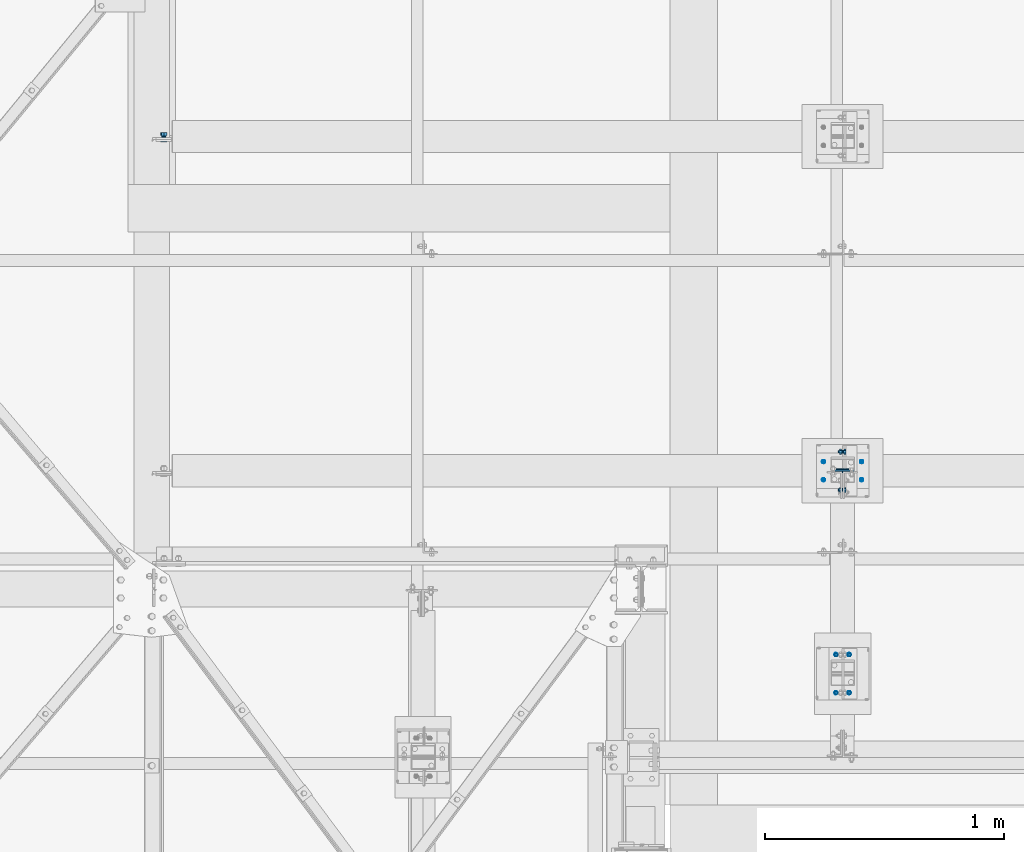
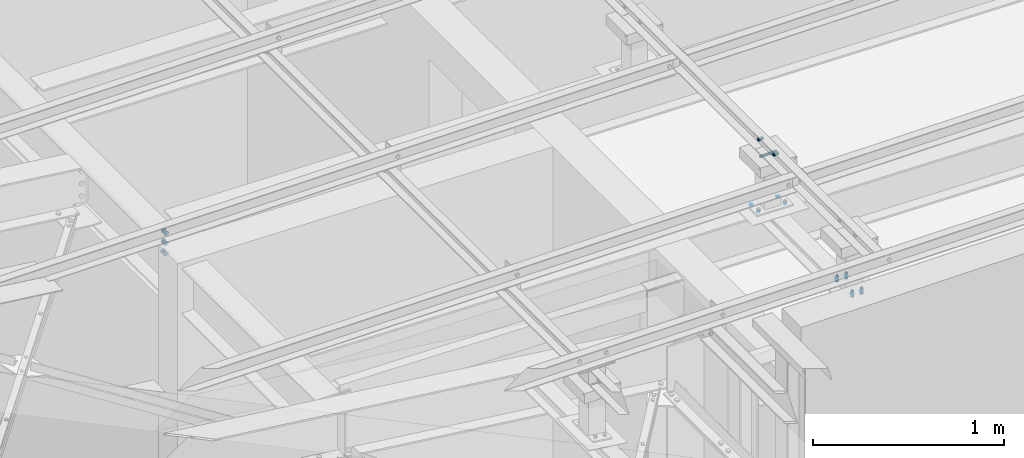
# One storey, part 389 of 3134: 6 mechanical fasteners, 5 elements without a shape of their own.
"""IFC2X3 building model written with IfcOpenShell, lengths in millimetres."""

from ifc_helpers import new_model, si_unit, frame, origin_with_axes, place, context, subcontext, project, spatial, faceted_brep, source, transform, mapped, material, type_object, element, aggregate, save


model = new_model("IFC2X3")

# Units and contexts
model_context = context("Model", 3, precision=1e-05, world=origin_with_axes())
body_context = subcontext(model_context, "Body", "Model", "MODEL_VIEW")
ifc_project = project(units=[si_unit("LENGTHUNIT", "METRE", prefix="MILLI"), si_unit("AREAUNIT", "SQUARE_METRE"), si_unit("VOLUMEUNIT", "CUBIC_METRE"), si_unit("MASSUNIT", "GRAM", prefix="KILO"), si_unit("TIMEUNIT", "SECOND"), si_unit("PLANEANGLEUNIT", "RADIAN"), si_unit("SOLIDANGLEUNIT", "STERADIAN"), si_unit("THERMODYNAMICTEMPERATUREUNIT", "DEGREE_CELSIUS"), si_unit("LUMINOUSINTENSITYUNIT", "LUMEN")], contexts=[model_context])

# Site, building, storey
site_placement = place(None, origin_with_axes())
site = spatial("IfcSite", under=ifc_project, at=site_placement, CompositionType="ELEMENT")
building_placement = place(site_placement, origin_with_axes())
building = spatial("IfcBuilding", under=site, at=building_placement, Name="Undefined", CompositionType="ELEMENT")
storey_placement = place(building_placement, origin_with_axes())
storey = spatial("IfcBuildingStorey", under=building, at=storey_placement, Name="Undefined", CompositionType="ELEMENT", Elevation=0.0)

# Assembly, mechanical fastener
assembly_1_placement = place(storey_placement, origin_with_axes())
assembly_1 = element("IfcElementAssembly", 1, at=assembly_1_placement, inside=storey, AssemblyPlace="NOTDEFINED", PredefinedType="RIGID_FRAME")
ifc_material = material(Name="8.8")
mechanical_fastener_type = type_object("IfcMechanicalFastenerType", Name="Bolt assembly")
shared_shape_1 = source(origin_with_axes(), body_context, "Body", "Brep", [
    faceted_brep([(10.9696551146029, -14.0, 0.0), (5.48482755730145, -14.0, 9.5), (-5.48482755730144, -14.0, 9.5), (-10.9696551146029, -14.0, 1.34339530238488e-15), (-5.48482755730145, -14.0, -9.5), (5.48482755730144, -14.0, -9.50000000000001), (5.48482755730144, -6.0, -9.50000000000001), (-5.48482755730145, -6.0, -9.5), (-10.9696551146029, -6.0, 1.34339530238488e-15), (-5.48482755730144, -6.0, 9.5), (5.48482755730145, -6.0, 9.5), (10.9696551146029, -6.0, 0.0), (6.0, -6.0, 0.0), (5.19615242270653, -6.0, 3.00000000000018), (2.99999999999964, -6.0, 5.19615242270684), (-6.21801588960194e-13, -6.0, 6.0), (-3.00000000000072, -6.0, 5.19615242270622), (-5.19615242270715, -6.0, 2.9999999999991), (-6.0, -6.0, -1.24360317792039e-12), (-5.19615242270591, -6.0, -3.00000000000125), (-2.99999999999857, -6.0, -5.19615242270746), (1.85874342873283e-12, -6.0, -6.0), (3.00000000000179, -6.0, -5.1961524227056), (5.19615242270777, -6.0, -2.99999999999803), (5.19615242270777, 19.0, -2.99999999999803), (3.00000000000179, 19.0, -5.1961524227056), (1.85874342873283e-12, 19.0, -6.0), (-2.99999999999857, 19.0, -5.19615242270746), (-5.19615242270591, 19.0, -3.00000000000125), (-6.0, 19.0, -1.24360317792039e-12), (-5.19615242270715, 19.0, 2.9999999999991), (-3.00000000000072, 19.0, 5.19615242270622), (-6.21801588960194e-13, 19.0, 6.0), (2.99999999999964, 19.0, 5.19615242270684), (5.19615242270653, 19.0, 3.00000000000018), (6.0, 19.0, 0.0), (10.9696551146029, 4.00000000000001, 0.0), (5.48482755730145, 4.00000000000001, 9.5), (-5.48482755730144, 4.00000000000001, 9.5), (-10.9696551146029, 4.00000000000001, 1.34339530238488e-15), (-5.48482755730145, 4.00000000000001, -9.5), (5.48482755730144, 4.00000000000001, -9.50000000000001), (5.48482755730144, 14.0, -9.50000000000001), (-5.48482755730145, 14.0, -9.5), (-10.9696551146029, 14.0, 1.34339530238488e-15), (-5.48482755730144, 14.0, 9.5), (5.48482755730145, 14.0, 9.5), (10.9696551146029, 14.0, 0.0)], [[[0, 1, 2, 3, 4, 5]], [[6, 7, 8, 9, 10, 11]], [[0, 11, 10, 1]], [[1, 10, 9, 2]], [[2, 9, 8, 3]], [[3, 8, 7, 4]], [[4, 7, 6, 5]], [[5, 6, 11, 0]], [[12, 13, 14, 15, 16, 17, 18, 19, 20, 21, 22, 23]], [[24, 25, 26, 27, 28, 29, 30, 31, 32, 33, 34, 35]], [[12, 35, 34, 13]], [[13, 34, 33, 14]], [[14, 33, 32, 15]], [[15, 32, 31, 16]], [[16, 31, 30, 17]], [[17, 30, 29, 18]], [[18, 29, 28, 19]], [[19, 28, 27, 20]], [[20, 27, 26, 21]], [[21, 26, 25, 22]], [[22, 25, 24, 23]], [[23, 24, 35, 12]], [[36, 37, 38, 39, 40, 41]], [[42, 43, 44, 45, 46, 47]], [[36, 47, 46, 37]], [[37, 46, 45, 38]], [[38, 45, 44, 39]], [[39, 44, 43, 40]], [[40, 43, 42, 41]], [[41, 42, 47, 36]]]),
    faceted_brep([(7.0, -0.1, 0.0), (6.06217782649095, -0.1, 3.50000000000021), (3.49999999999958, -0.1, 6.06217782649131), (-7.25435187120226e-13, -0.1, 7.0), (-3.50000000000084, -0.1, 6.06217782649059), (-6.06217782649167, -0.1, 3.49999999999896), (-7.0, -0.1, -1.45087037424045e-12), (-6.06217782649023, -0.1, -3.50000000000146), (-3.49999999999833, -0.1, -6.06217782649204), (2.1685340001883e-12, -0.1, -7.0), (3.50000000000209, -0.1, -6.06217782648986), (6.0621778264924, -0.1, -3.4999999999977), (6.0621778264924, 4.00000000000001, -3.4999999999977), (3.50000000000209, 4.00000000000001, -6.06217782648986), (2.1685340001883e-12, 4.00000000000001, -7.0), (-3.49999999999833, 4.00000000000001, -6.06217782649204), (-6.06217782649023, 4.00000000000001, -3.50000000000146), (-7.0, 4.00000000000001, -1.45087037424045e-12), (-6.06217782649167, 4.00000000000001, 3.49999999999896), (-3.50000000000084, 4.00000000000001, 6.06217782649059), (-7.25435187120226e-13, 4.00000000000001, 7.0), (3.49999999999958, 4.00000000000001, 6.06217782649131), (6.06217782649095, 4.00000000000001, 3.50000000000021), (7.0, 4.00000000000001, 0.0), (7.0, -5.9, 0.0), (6.06217782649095, -5.9, 3.50000000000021), (3.49999999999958, -5.9, 6.06217782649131), (-7.25435187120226e-13, -5.9, 7.0), (-3.50000000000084, -5.9, 6.06217782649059), (-6.06217782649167, -5.9, 3.49999999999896), (-7.0, -5.9, -1.45087037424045e-12), (-6.06217782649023, -5.9, -3.50000000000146), (-3.49999999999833, -5.9, -6.06217782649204), (2.1685340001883e-12, -5.9, -7.0), (3.50000000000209, -5.9, -6.06217782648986), (6.0621778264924, -5.9, -3.4999999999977), (6.0621778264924, 0.0999999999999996, -3.4999999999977), (3.50000000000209, 0.0999999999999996, -6.06217782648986), (2.1685340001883e-12, 0.0999999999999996, -7.0), (-3.49999999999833, 0.0999999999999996, -6.06217782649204), (-6.06217782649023, 0.0999999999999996, -3.50000000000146), (-7.0, 0.0999999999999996, -1.45087037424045e-12), (-6.06217782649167, 0.0999999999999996, 3.49999999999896), (-3.50000000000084, 0.0999999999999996, 6.06217782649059), (-7.25435187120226e-13, 0.0999999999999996, 7.0), (3.49999999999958, 0.0999999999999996, 6.06217782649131), (6.06217782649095, 0.0999999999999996, 3.50000000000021), (7.0, 0.0999999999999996, 0.0)], [[[0, 1, 2, 3, 4, 5, 6, 7, 8, 9, 10, 11]], [[12, 13, 14, 15, 16, 17, 18, 19, 20, 21, 22, 23]], [[0, 23, 22, 1]], [[1, 22, 21, 2]], [[2, 21, 20, 3]], [[3, 20, 19, 4]], [[4, 19, 18, 5]], [[5, 18, 17, 6]], [[6, 17, 16, 7]], [[7, 16, 15, 8]], [[8, 15, 14, 9]], [[9, 14, 13, 10]], [[10, 13, 12, 11]], [[11, 12, 23, 0]], [[24, 25, 26, 27, 28, 29, 30, 31, 32, 33, 34, 35]], [[36, 37, 38, 39, 40, 41, 42, 43, 44, 45, 46, 47]], [[24, 47, 46, 25]], [[25, 46, 45, 26]], [[26, 45, 44, 27]], [[27, 44, 43, 28]], [[28, 43, 42, 29]], [[29, 42, 41, 30]], [[30, 41, 40, 31]], [[31, 40, 39, 32]], [[32, 39, 38, 33]], [[33, 38, 37, 34]], [[34, 37, 36, 35]], [[35, 36, 47, 24]]]),
])
mechanical_fastener_1_placement = place(assembly_1_placement, frame((72658.73, 27665.0, 5885.0), z_axis=(0.0, 0.0, 1.0), x_axis=(0.0, 1.0, 0.0)))
mechanical_fastener_1 = element("IfcMechanicalFastener", 2, at=mechanical_fastener_1_placement, type_object=mechanical_fastener_type, material=ifc_material, Name="Bolt assembly", NominalDiameter=12.0, NominalLength=25.0, context=body_context, shape_type="MappedRepresentation", body=[
    mapped(shared_shape_1, transform((0.0, 0.0, 0.0))),
    mapped(shared_shape_1, transform((160.0, 0.0, 0.0))),
])

assembly_2_placement = place(storey_placement, origin_with_axes())
assembly_2 = element("IfcElementAssembly", 3, at=assembly_2_placement, inside=storey, AssemblyPlace="NOTDEFINED", PredefinedType="RIGID_FRAME")
shared_shape_2 = source(origin_with_axes(), body_context, "Body", "Brep", [
    faceted_brep([(7.0, 13.0000253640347, 0.0), (6.06217782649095, 13.0000253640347, 3.50000000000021), (3.49999999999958, 13.0000253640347, 6.06217782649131), (-7.25435187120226e-13, 13.0000253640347, 7.0), (-3.50000000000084, 13.0000253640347, 6.06217782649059), (-6.06217782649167, 13.0000253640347, 3.49999999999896), (-7.0, 13.0000253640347, -1.45087037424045e-12), (-6.06217782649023, 13.0000253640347, -3.50000000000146), (-3.49999999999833, 13.0000253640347, -6.06217782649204), (2.1685340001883e-12, 13.0000253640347, -7.0), (3.50000000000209, 13.0000253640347, -6.06217782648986), (6.0621778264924, 13.0000253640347, -3.4999999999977), (6.0621778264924, 15.0999999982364, -3.4999999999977), (3.50000000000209, 15.0999999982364, -6.06217782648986), (2.1685340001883e-12, 15.0999999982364, -7.0), (-3.49999999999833, 15.0999999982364, -6.06217782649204), (-6.06217782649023, 15.0999999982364, -3.50000000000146), (-7.0, 15.0999999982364, -1.45087037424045e-12), (-6.06217782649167, 15.0999999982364, 3.49999999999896), (-3.50000000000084, 15.0999999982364, 6.06217782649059), (-7.25435187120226e-13, 15.0999999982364, 7.0), (3.49999999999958, 15.0999999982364, 6.06217782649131), (6.06217782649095, 15.0999999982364, 3.50000000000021), (7.0, 15.0999999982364, 0.0)], [[[0, 1, 2, 3, 4, 5, 6, 7, 8, 9, 10, 11]], [[12, 13, 14, 15, 16, 17, 18, 19, 20, 21, 22, 23]], [[0, 23, 22, 1]], [[1, 22, 21, 2]], [[2, 21, 20, 3]], [[3, 20, 19, 4]], [[4, 19, 18, 5]], [[5, 18, 17, 6]], [[6, 17, 16, 7]], [[7, 16, 15, 8]], [[8, 15, 14, 9]], [[9, 14, 13, 10]], [[10, 13, 12, 11]], [[11, 12, 23, 0]]]),
])
mechanical_fastener_2_placement = place(assembly_2_placement, frame((72658.2680906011, 27783.0, 5500.96064104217), z_axis=(-0.999799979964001, 0.0, 0.0200000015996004), x_axis=(0.0, -1.0, 0.0)))
mechanical_fastener_2 = element("IfcMechanicalFastener", 4, at=mechanical_fastener_2_placement, type_object=mechanical_fastener_type, material=ifc_material, Name="Bolt assembly", NominalDiameter=12.0, NominalLength=2.0, context=body_context, shape_type="MappedRepresentation", body=[
    mapped(shared_shape_2, transform((0.0, -5.32963895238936e-10, -79.9999999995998))),
    mapped(shared_shape_2, transform((76.0, -5.32963895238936e-10, -79.9999999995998))),
    mapped(shared_shape_2, transform((0.0, 5.3114490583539e-10, 79.9999999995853))),
    mapped(shared_shape_2, transform((76.0, 5.3114490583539e-10, 79.9999999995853))),
])
aggregate(assembly_2, [mechanical_fastener_2])

assembly_3_placement = place(storey_placement, origin_with_axes())
assembly_3 = element("IfcElementAssembly", 5, at=assembly_3_placement, inside=storey, AssemblyPlace="NOTDEFINED", PredefinedType="RIGID_FRAME")
mechanical_fastener_3_placement = place(assembly_3_placement, frame((72630.2753260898, 26894.9983647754, 5501.52060992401), z_axis=(0.0, -1.0, 0.0), x_axis=(0.999799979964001, 0.0, -0.0200000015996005)))
mechanical_fastener_3 = element("IfcMechanicalFastener", 6, at=mechanical_fastener_3_placement, type_object=mechanical_fastener_type, material=ifc_material, Name="Bolt assembly", NominalDiameter=12.0, NominalLength=2.0, context=body_context, shape_type="MappedRepresentation", body=[
    mapped(shared_shape_2, transform((0.0, -5.32963895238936e-10, -79.9999999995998))),
    mapped(shared_shape_2, transform((55.9999999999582, 4.54747350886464e-13, -80.0))),
    mapped(shared_shape_2, transform((0.0, 5.3114490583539e-10, 79.9999999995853))),
    mapped(shared_shape_2, transform((55.9999999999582, 4.54747350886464e-13, 80.0))),
])
aggregate(assembly_3, [mechanical_fastener_3])

# Mechanical fastener
shared_shape_3 = source(origin_with_axes(), body_context, "Body", "Brep", [
    faceted_brep([(9.0, -50.0, 0.0), (7.79422863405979, -50.0, 4.50000000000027), (4.49999999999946, -50.0, 7.79422863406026), (-9.3270238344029e-13, -50.0, 9.0), (-4.50000000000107, -50.0, 7.79422863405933), (-7.79422863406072, -50.0, 4.49999999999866), (-9.0, -50.0, -1.86540476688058e-12), (-7.79422863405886, -50.0, -4.50000000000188), (-4.49999999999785, -50.0, -7.79422863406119), (2.78811514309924e-12, -50.0, -9.0), (4.50000000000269, -50.0, -7.7942286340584), (7.79422863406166, -50.0, -4.49999999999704), (7.79422863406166, 50.1, -4.49999999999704), (4.50000000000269, 50.1, -7.7942286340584), (2.78811514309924e-12, 50.1, -9.0), (-4.49999999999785, 50.1, -7.79422863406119), (-7.79422863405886, 50.1, -4.50000000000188), (-9.0, 50.1, -1.86540476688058e-12), (-7.79422863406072, 50.1, 4.49999999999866), (-4.50000000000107, 50.1, 7.79422863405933), (-9.3270238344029e-13, 50.1, 9.0), (4.49999999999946, 50.1, 7.79422863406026), (7.79422863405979, 50.1, 4.50000000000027), (9.0, 50.1, 0.0)], [[[0, 1, 2, 3, 4, 5, 6, 7, 8, 9, 10, 11]], [[12, 13, 14, 15, 16, 17, 18, 19, 20, 21, 22, 23]], [[0, 23, 22, 1]], [[1, 22, 21, 2]], [[2, 21, 20, 3]], [[3, 20, 19, 4]], [[4, 19, 18, 5]], [[5, 18, 17, 6]], [[6, 17, 16, 7]], [[7, 16, 15, 8]], [[8, 15, 14, 9]], [[9, 14, 13, 10]], [[10, 13, 12, 11]], [[11, 12, 23, 0]]]),
])
mechanical_fastener_4_placement = place(assembly_1_placement, frame((72658.73, 27745.0, 5836.0), z_axis=(0.0, 1.0, 0.0), x_axis=(0.0, 0.0, 1.0)))
mechanical_fastener_4 = element("IfcMechanicalFastener", 7, at=mechanical_fastener_4_placement, type_object=mechanical_fastener_type, material=ifc_material, Name="Bolt assembly", NominalDiameter=16.0, NominalLength=100.0, context=body_context, shape_type="MappedRepresentation", body=[
    mapped(shared_shape_3, transform((0.0, 0.0, 0.0))),
])

aggregate(assembly_1, [mechanical_fastener_4, mechanical_fastener_1])

# Assembly, mechanical fastener
assembly_4_placement = place(storey_placement, origin_with_axes())
assembly_4 = element("IfcElementAssembly", 8, at=assembly_4_placement, inside=storey, Name="HEA100", AssemblyPlace="NOTDEFINED", PredefinedType="RIGID_FRAME")
shared_shape_4 = source(origin_with_axes(), body_context, "Body", "Brep", [
    faceted_brep([(10.9696551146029, 0.00795471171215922, 0.0), (5.48482755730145, 0.00795471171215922, 9.5), (-5.48482755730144, 0.00795471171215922, 9.5), (-10.9696551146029, 0.00795471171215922, 1.34339530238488e-15), (-5.48482755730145, 0.00795471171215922, -9.5), (5.48482755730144, 0.00795471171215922, -9.50000000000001), (5.48482755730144, 8.00795471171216, -9.50000000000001), (-5.48482755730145, 8.00795471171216, -9.5), (-10.9696551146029, 8.00795471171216, 1.34339530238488e-15), (-5.48482755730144, 8.00795471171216, 9.5), (5.48482755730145, 8.00795471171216, 9.5), (10.9696551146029, 8.00795471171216, 0.0), (6.0, 8.00795471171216, 0.0), (5.19615242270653, 8.00795471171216, 3.00000000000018), (2.99999999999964, 8.00795471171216, 5.19615242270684), (-6.21801588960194e-13, 8.00795471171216, 6.0), (-3.00000000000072, 8.00795471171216, 5.19615242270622), (-5.19615242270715, 8.00795471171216, 2.9999999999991), (-6.0, 8.00795471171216, -1.24360317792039e-12), (-5.19615242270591, 8.00795471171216, -3.00000000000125), (-2.99999999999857, 8.00795471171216, -5.19615242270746), (1.85874342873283e-12, 8.00795471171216, -6.0), (3.00000000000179, 8.00795471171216, -5.1961524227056), (5.19615242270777, 8.00795471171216, -2.99999999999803), (5.19615242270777, 43.0079547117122, -2.99999999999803), (3.00000000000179, 43.0079547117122, -5.1961524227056), (1.85874342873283e-12, 43.0079547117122, -6.0), (-2.99999999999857, 43.0079547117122, -5.19615242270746), (-5.19615242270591, 43.0079547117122, -3.00000000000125), (-6.0, 43.0079547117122, -1.24360317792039e-12), (-5.19615242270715, 43.0079547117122, 2.9999999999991), (-3.00000000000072, 43.0079547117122, 5.19615242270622), (-6.21801588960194e-13, 43.0079547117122, 6.0), (2.99999999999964, 43.0079547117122, 5.19615242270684), (5.19615242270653, 43.0079547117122, 3.00000000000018), (6.0, 43.0079547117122, 0.0), (10.9696551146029, 26.0249922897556, 0.0), (5.48482755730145, 26.0249922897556, 9.5), (-5.48482755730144, 26.0249922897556, 9.5), (-10.9696551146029, 26.0249922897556, 1.34339530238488e-15), (-5.48482755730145, 26.0249922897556, -9.5), (5.48482755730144, 26.0249922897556, -9.50000000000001), (5.48482755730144, 36.0249922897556, -9.50000000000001), (-5.48482755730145, 36.0249922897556, -9.5), (-10.9696551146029, 36.0249922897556, 1.34339530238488e-15), (-5.48482755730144, 36.0249922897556, 9.5), (5.48482755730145, 36.0249922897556, 9.5), (10.9696551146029, 36.0249922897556, 0.0)], [[[0, 1, 2, 3, 4, 5]], [[6, 7, 8, 9, 10, 11]], [[0, 11, 10, 1]], [[1, 10, 9, 2]], [[2, 9, 8, 3]], [[3, 8, 7, 4]], [[4, 7, 6, 5]], [[5, 6, 11, 0]], [[12, 13, 14, 15, 16, 17, 18, 19, 20, 21, 22, 23]], [[24, 25, 26, 27, 28, 29, 30, 31, 32, 33, 34, 35]], [[12, 35, 34, 13]], [[13, 34, 33, 14]], [[14, 33, 32, 15]], [[15, 32, 31, 16]], [[16, 31, 30, 17]], [[17, 30, 29, 18]], [[18, 29, 28, 19]], [[19, 28, 27, 20]], [[20, 27, 26, 21]], [[21, 26, 25, 22]], [[22, 25, 24, 23]], [[23, 24, 35, 12]], [[36, 37, 38, 39, 40, 41]], [[42, 43, 44, 45, 46, 47]], [[36, 47, 46, 37]], [[37, 46, 45, 38]], [[38, 45, 44, 39]], [[39, 44, 43, 40]], [[40, 43, 42, 41]], [[41, 42, 47, 36]]]),
    faceted_brep([(7.0, 17.9249922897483, 0.0), (6.06217782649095, 17.9249922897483, 3.50000000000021), (3.49999999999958, 17.9249922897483, 6.06217782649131), (-7.25435187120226e-13, 17.9249922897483, 7.0), (-3.50000000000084, 17.9249922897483, 6.06217782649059), (-6.06217782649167, 17.9249922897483, 3.49999999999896), (-7.0, 17.9249922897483, -1.45087037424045e-12), (-6.06217782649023, 17.9249922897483, -3.50000000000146), (-3.49999999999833, 17.9249922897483, -6.06217782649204), (2.1685340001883e-12, 17.9249922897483, -7.0), (3.50000000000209, 17.9249922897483, -6.06217782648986), (6.0621778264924, 17.9249922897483, -3.4999999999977), (6.0621778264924, 26.0249922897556, -3.4999999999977), (3.50000000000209, 26.0249922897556, -6.06217782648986), (2.1685340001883e-12, 26.0249922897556, -7.0), (-3.49999999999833, 26.0249922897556, -6.06217782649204), (-6.06217782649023, 26.0249922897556, -3.50000000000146), (-7.0, 26.0249922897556, -1.45087037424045e-12), (-6.06217782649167, 26.0249922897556, 3.49999999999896), (-3.50000000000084, 26.0249922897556, 6.06217782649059), (-7.25435187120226e-13, 26.0249922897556, 7.0), (3.49999999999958, 26.0249922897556, 6.06217782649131), (6.06217782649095, 26.0249922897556, 3.50000000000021), (7.0, 26.0249922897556, 0.0), (7.0, 8.10795471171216, 0.0), (6.06217782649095, 8.10795471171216, 3.50000000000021), (3.49999999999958, 8.10795471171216, 6.06217782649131), (-7.25435187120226e-13, 8.10795471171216, 7.0), (-3.50000000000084, 8.10795471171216, 6.06217782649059), (-6.06217782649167, 8.10795471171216, 3.49999999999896), (-7.0, 8.10795471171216, -1.45087037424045e-12), (-6.06217782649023, 8.10795471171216, -3.50000000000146), (-3.49999999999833, 8.10795471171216, -6.06217782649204), (2.1685340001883e-12, 8.10795471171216, -7.0), (3.50000000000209, 8.10795471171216, -6.06217782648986), (6.0621778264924, 8.10795471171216, -3.4999999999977), (6.0621778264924, 16.1079390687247, -3.4999999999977), (3.50000000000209, 16.1079390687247, -6.06217782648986), (2.1685340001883e-12, 16.1079390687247, -7.0), (-3.49999999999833, 16.1079390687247, -6.06217782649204), (-6.06217782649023, 16.1079390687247, -3.50000000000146), (-7.0, 16.1079390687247, -1.45087037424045e-12), (-6.06217782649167, 16.1079390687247, 3.49999999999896), (-3.50000000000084, 16.1079390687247, 6.06217782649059), (-7.25435187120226e-13, 16.1079390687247, 7.0), (3.49999999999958, 16.1079390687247, 6.06217782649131), (6.06217782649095, 16.1079390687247, 3.50000000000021), (7.0, 16.1079390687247, 0.0)], [[[0, 1, 2, 3, 4, 5, 6, 7, 8, 9, 10, 11]], [[12, 13, 14, 15, 16, 17, 18, 19, 20, 21, 22, 23]], [[0, 23, 22, 1]], [[1, 22, 21, 2]], [[2, 21, 20, 3]], [[3, 20, 19, 4]], [[4, 19, 18, 5]], [[5, 18, 17, 6]], [[6, 17, 16, 7]], [[7, 16, 15, 8]], [[8, 15, 14, 9]], [[9, 14, 13, 10]], [[10, 13, 12, 11]], [[11, 12, 23, 0]], [[24, 25, 26, 27, 28, 29, 30, 31, 32, 33, 34, 35]], [[36, 37, 38, 39, 40, 41, 42, 43, 44, 45, 46, 47]], [[24, 47, 46, 25]], [[25, 46, 45, 26]], [[26, 45, 44, 27]], [[27, 44, 43, 28]], [[28, 43, 42, 29]], [[29, 42, 41, 30]], [[30, 41, 40, 31]], [[31, 40, 39, 32]], [[32, 39, 38, 33]], [[33, 38, 37, 34]], [[34, 37, 36, 35]], [[35, 36, 47, 24]]]),
])
mechanical_fastener_5_placement = place(assembly_4_placement, frame((72630.217320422, 26894.9983647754, 5498.510071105), z_axis=(0.0, -1.0, 0.0), x_axis=(0.999799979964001, 0.0, -0.0200000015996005)))
mechanical_fastener_5 = element("IfcMechanicalFastener", 9, at=mechanical_fastener_5_placement, type_object=mechanical_fastener_type, material=ifc_material, Name="Bolt assembly", NominalDiameter=12.0, NominalLength=35.0, context=body_context, shape_type="MappedRepresentation", body=[
    mapped(shared_shape_4, transform((0.0, -5.32963895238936e-10, -79.9999999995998))),
    mapped(shared_shape_4, transform((55.9999999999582, 4.54747350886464e-13, -80.0))),
    mapped(shared_shape_4, transform((0.0, 5.3114490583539e-10, 79.9999999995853))),
    mapped(shared_shape_4, transform((55.9999999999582, 4.54747350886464e-13, 80.0))),
])
aggregate(assembly_4, [mechanical_fastener_5])

assembly_5_placement = place(storey_placement, origin_with_axes())
assembly_5 = element("IfcElementAssembly", 10, at=assembly_5_placement, inside=storey, Name="IPE270", AssemblyPlace="NOTDEFINED", PredefinedType="RIGID_FRAME")
shared_shape_5 = source(origin_with_axes(), body_context, "Body", "Brep", [
    faceted_brep([(13.856406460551, -23.2999999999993, 0.0), (6.92820323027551, -23.2999999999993, 12.0), (-6.92820323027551, -23.2999999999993, 12.0), (-13.856406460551, -23.2999999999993, 1.69692038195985e-15), (-6.92820323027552, -23.2999999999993, -12.0), (6.9282032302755, -23.2999999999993, -12.0), (6.9282032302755, -13.2999999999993, -12.0), (-6.92820323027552, -13.2999999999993, -12.0), (-13.856406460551, -13.2999999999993, 1.69692038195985e-15), (-6.92820323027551, -13.2999999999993, 12.0), (6.92820323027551, -13.2999999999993, 12.0), (13.856406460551, -13.2999999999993, 0.0), (8.0, -13.2999999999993, 0.0), (6.92820323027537, -13.2999999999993, 4.00000000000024), (3.99999999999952, -13.2999999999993, 6.92820323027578), (-8.29068785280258e-13, -13.2999999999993, 8.0), (-4.00000000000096, -13.2999999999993, 6.92820323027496), (-6.9282032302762, -13.2999999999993, 3.99999999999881), (-8.0, -13.2999999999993, -1.65813757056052e-12), (-6.92820323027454, -13.2999999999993, -4.00000000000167), (-3.99999999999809, -13.2999999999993, -6.92820323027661), (2.47832457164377e-12, -13.2999999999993, -8.0), (4.00000000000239, -13.2999999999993, -6.92820323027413), (6.92820323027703, -13.2999999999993, -3.99999999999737), (6.92820323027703, 16.7000000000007, -3.99999999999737), (4.00000000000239, 16.7000000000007, -6.92820323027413), (2.47832457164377e-12, 16.7000000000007, -8.0), (-3.99999999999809, 16.7000000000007, -6.92820323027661), (-6.92820323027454, 16.7000000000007, -4.00000000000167), (-8.0, 16.7000000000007, -1.65813757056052e-12), (-6.9282032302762, 16.7000000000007, 3.99999999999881), (-4.00000000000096, 16.7000000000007, 6.92820323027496), (-8.29068785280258e-13, 16.7000000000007, 8.0), (3.99999999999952, 16.7000000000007, 6.92820323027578), (6.92820323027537, 16.7000000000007, 4.00000000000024), (8.0, 16.7000000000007, 0.0), (13.856406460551, 3.29999995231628, 0.0), (6.92820323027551, 3.29999995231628, 12.0), (-6.92820323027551, 3.29999995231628, 12.0), (-13.856406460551, 3.29999995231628, 1.69692038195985e-15), (-6.92820323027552, 3.29999995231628, -12.0), (6.9282032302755, 3.29999995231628, -12.0), (6.9282032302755, 16.2999999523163, -12.0), (-6.92820323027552, 16.2999999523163, -12.0), (-13.856406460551, 16.2999999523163, 1.69692038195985e-15), (-6.92820323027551, 16.2999999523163, 12.0), (6.92820323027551, 16.2999999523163, 12.0), (13.856406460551, 16.2999999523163, 0.0)], [[[0, 1, 2, 3, 4, 5]], [[6, 7, 8, 9, 10, 11]], [[0, 11, 10, 1]], [[1, 10, 9, 2]], [[2, 9, 8, 3]], [[3, 8, 7, 4]], [[4, 7, 6, 5]], [[5, 6, 11, 0]], [[12, 13, 14, 15, 16, 17, 18, 19, 20, 21, 22, 23]], [[24, 25, 26, 27, 28, 29, 30, 31, 32, 33, 34, 35]], [[12, 35, 34, 13]], [[13, 34, 33, 14]], [[14, 33, 32, 15]], [[15, 32, 31, 16]], [[16, 31, 30, 17]], [[17, 30, 29, 18]], [[18, 29, 28, 19]], [[19, 28, 27, 20]], [[20, 27, 26, 21]], [[21, 26, 25, 22]], [[22, 25, 24, 23]], [[23, 24, 35, 12]], [[36, 37, 38, 39, 40, 41]], [[42, 43, 44, 45, 46, 47]], [[36, 47, 46, 37]], [[37, 46, 45, 38]], [[38, 45, 44, 39]], [[39, 44, 43, 40]], [[40, 43, 42, 41]], [[41, 42, 47, 36]]]),
    faceted_brep([(9.0, -13.1999999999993, 0.0), (7.79422863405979, -13.1999999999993, 4.50000000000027), (4.49999999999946, -13.1999999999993, 7.79422863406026), (-9.3270238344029e-13, -13.1999999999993, 9.0), (-4.50000000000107, -13.1999999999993, 7.79422863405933), (-7.79422863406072, -13.1999999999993, 4.49999999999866), (-9.0, -13.1999999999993, -1.86540476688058e-12), (-7.79422863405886, -13.1999999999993, -4.50000000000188), (-4.49999999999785, -13.1999999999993, -7.79422863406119), (2.78811514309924e-12, -13.1999999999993, -9.0), (4.50000000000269, -13.1999999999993, -7.7942286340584), (7.79422863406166, -13.1999999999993, -4.49999999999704), (7.79422863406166, -3.19999999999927, -4.49999999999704), (4.50000000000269, -3.19999999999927, -7.7942286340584), (2.78811514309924e-12, -3.19999999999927, -9.0), (-4.49999999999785, -3.19999999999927, -7.79422863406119), (-7.79422863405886, -3.19999999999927, -4.50000000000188), (-9.0, -3.19999999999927, -1.86540476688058e-12), (-7.79422863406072, -3.19999999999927, 4.49999999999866), (-4.50000000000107, -3.19999999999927, 7.79422863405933), (-9.3270238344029e-13, -3.19999999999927, 9.0), (4.49999999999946, -3.19999999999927, 7.79422863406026), (7.79422863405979, -3.19999999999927, 4.50000000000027), (9.0, -3.19999999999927, 0.0), (9.0, -3.39999999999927, 0.0), (7.79422863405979, -3.39999999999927, 4.50000000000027), (4.49999999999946, -3.39999999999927, 7.79422863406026), (-9.3270238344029e-13, -3.39999999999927, 9.0), (-4.50000000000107, -3.39999999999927, 7.79422863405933), (-7.79422863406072, -3.39999999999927, 4.49999999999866), (-9.0, -3.39999999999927, -1.86540476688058e-12), (-7.79422863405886, -3.39999999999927, -4.50000000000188), (-4.49999999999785, -3.39999999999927, -7.79422863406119), (2.78811514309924e-12, -3.39999999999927, -9.0), (4.50000000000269, -3.39999999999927, -7.7942286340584), (7.79422863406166, -3.39999999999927, -4.49999999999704), (7.79422863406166, 3.29999995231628, -4.49999999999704), (4.50000000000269, 3.29999995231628, -7.7942286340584), (2.78811514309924e-12, 3.29999995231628, -9.0), (-4.49999999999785, 3.29999995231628, -7.79422863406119), (-7.79422863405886, 3.29999995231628, -4.50000000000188), (-9.0, 3.29999995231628, -1.86540476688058e-12), (-7.79422863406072, 3.29999995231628, 4.49999999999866), (-4.50000000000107, 3.29999995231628, 7.79422863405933), (-9.3270238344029e-13, 3.29999995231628, 9.0), (4.49999999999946, 3.29999995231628, 7.79422863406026), (7.79422863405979, 3.29999995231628, 4.50000000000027), (9.0, 3.29999995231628, 0.0)], [[[0, 1, 2, 3, 4, 5, 6, 7, 8, 9, 10, 11]], [[12, 13, 14, 15, 16, 17, 18, 19, 20, 21, 22, 23]], [[0, 23, 22, 1]], [[1, 22, 21, 2]], [[2, 21, 20, 3]], [[3, 20, 19, 4]], [[4, 19, 18, 5]], [[5, 18, 17, 6]], [[6, 17, 16, 7]], [[7, 16, 15, 8]], [[8, 15, 14, 9]], [[9, 14, 13, 10]], [[10, 13, 12, 11]], [[11, 12, 23, 0]], [[24, 25, 26, 27, 28, 29, 30, 31, 32, 33, 34, 35]], [[36, 37, 38, 39, 40, 41, 42, 43, 44, 45, 46, 47]], [[24, 47, 46, 25]], [[25, 46, 45, 26]], [[26, 45, 44, 27]], [[27, 44, 43, 28]], [[28, 43, 42, 29]], [[29, 42, 41, 30]], [[30, 41, 40, 31]], [[31, 40, 39, 32]], [[32, 39, 38, 33]], [[33, 38, 37, 34]], [[34, 37, 36, 35]], [[35, 36, 47, 24]]]),
])
mechanical_fastener_6_placement = place(assembly_5_placement, frame((69814.1428510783, 29145.0, 5355.80292590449), z_axis=(-0.999800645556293, 0.0, 0.0199667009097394), x_axis=(0.0199667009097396, 0.0, 0.999800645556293)))
mechanical_fastener_6 = element("IfcMechanicalFastener", 11, at=mechanical_fastener_6_placement, type_object=mechanical_fastener_type, material=ifc_material, Name="Bolt assembly", NominalDiameter=16.0, NominalLength=30.0, context=body_context, shape_type="MappedRepresentation", body=[
    mapped(shared_shape_5, transform((0.0, 0.0, 0.0))),
    mapped(shared_shape_5, transform((65.0, 0.0, 0.0))),
    mapped(shared_shape_5, transform((130.0, 0.0, 0.0))),
])
aggregate(assembly_5, [mechanical_fastener_6])

save(model, "model.ifc")
